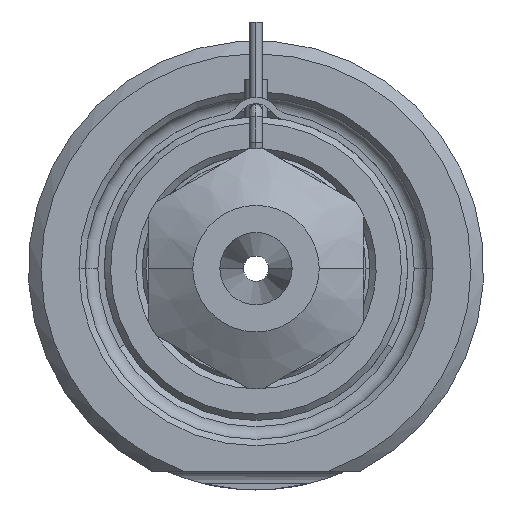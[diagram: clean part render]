
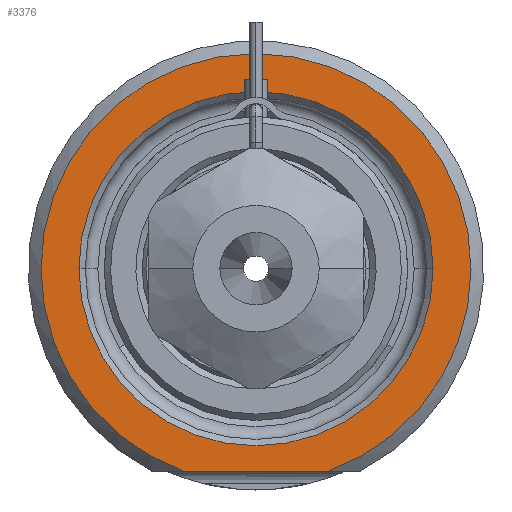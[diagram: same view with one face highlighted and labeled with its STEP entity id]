
A CAD part, front view. The second image highlights one B-rep face of the part: STEP entity #3376.
In plain terms, the highlighted planar face has unit normal (0, -1, 0).
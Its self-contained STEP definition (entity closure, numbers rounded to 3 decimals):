
#690=DIRECTION('',(1.,0.,0.));
#691=VECTOR('',#690,11.489);
#692=CARTESIAN_POINT('',(-5.745,0.,-16.));
#693=LINE('',#692,#691);
#694=CARTESIAN_POINT('',(0.,0.,0.));
#695=DIRECTION('',(0.,1.,0.));
#696=DIRECTION('',(-1.,0.,0.));
#697=AXIS2_PLACEMENT_3D('',#694,#695,#696);
#699=CARTESIAN_POINT('',(0.,0.,0.));
#700=DIRECTION('',(0.,1.,0.));
#701=DIRECTION('',(1.,0.,0.));
#702=AXIS2_PLACEMENT_3D('',#699,#700,#701);
#806=CARTESIAN_POINT('',(0.,0.,0.));
#807=DIRECTION('',(0.,-1.,0.));
#808=DIRECTION('',(0.338,0.,-0.941));
#809=AXIS2_PLACEMENT_3D('',#806,#807,#808);
#2168=CARTESIAN_POINT('',(-14.,0.,0.));
#2169=CARTESIAN_POINT('',(14.,0.,0.));
#2170=VERTEX_POINT('',#2168);
#2171=VERTEX_POINT('',#2169);
#2218=CARTESIAN_POINT('',(-5.745,0.,-16.));
#2219=CARTESIAN_POINT('',(5.745,0.,-16.));
#2220=VERTEX_POINT('',#2218);
#2221=VERTEX_POINT('',#2219);
#3360=CARTESIAN_POINT('',(0.,0.,0.));
#3361=DIRECTION('',(0.,-1.,0.));
#3362=DIRECTION('',(1.,0.,0.));
#3363=AXIS2_PLACEMENT_3D('',#3360,#3361,#3362);
#3364=PLANE('',#3363);
#3366=ORIENTED_EDGE('',*,*,#3365,.F.);
#3368=ORIENTED_EDGE('',*,*,#3367,.F.);
#3369=EDGE_LOOP('',(#3366,#3368));
#3370=FACE_OUTER_BOUND('',#3369,.F.);
#3372=ORIENTED_EDGE('',*,*,#3371,.F.);
#3373=ORIENTED_EDGE('',*,*,#3350,.F.);
#3374=EDGE_LOOP('',(#3372,#3373));
#3375=FACE_BOUND('',#3374,.F.);
#3376=ADVANCED_FACE('',(#3370,#3375),#3364,.T.);
#698=CIRCLE('',#697,14.);
#703=CIRCLE('',#702,14.);
#810=CIRCLE('',#809,17.);
#3350=EDGE_CURVE('',#2171,#2170,#703,.T.);
#3365=EDGE_CURVE('',#2220,#2221,#693,.T.);
#3367=EDGE_CURVE('',#2221,#2220,#810,.T.);
#3371=EDGE_CURVE('',#2170,#2171,#698,.T.);
